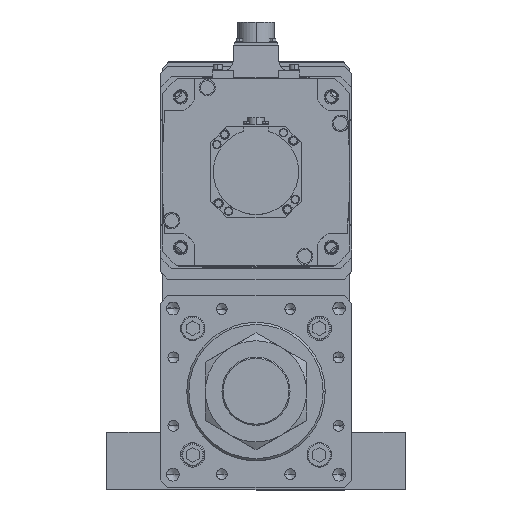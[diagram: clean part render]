
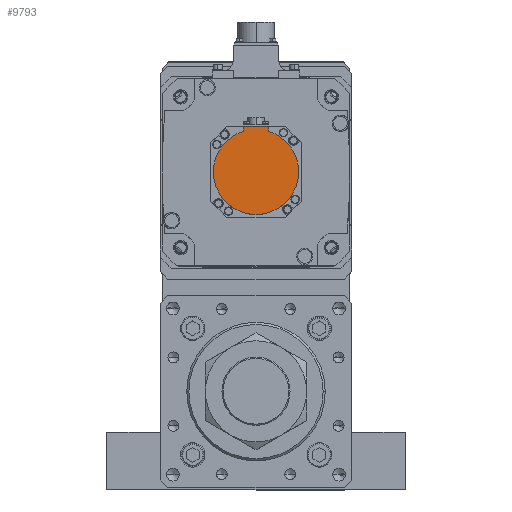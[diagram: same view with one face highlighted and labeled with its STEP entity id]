
A CAD part, top view. The second image highlights one B-rep face of the part: STEP entity #9793.
In plain terms, the highlighted planar face has unit normal (0, 0, 1) as drawn and (0, 0, -1) by its records, which use the part's own axes.
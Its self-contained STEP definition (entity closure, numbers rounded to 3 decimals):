
#882 = DIRECTION ( 'NONE',  ( -1., 0., 0. ) ) ;
#2450 = PLANE ( 'NONE',  #10994 ) ;
#7674 = EDGE_LOOP ( 'NONE', ( #53135, #46931, #9994, #36414, #35733, #21963 ) ) ;
#8342 = VERTEX_POINT ( 'NONE', #23519 ) ;
#8543 = LINE ( 'NONE', #25608, #47356 ) ;
#9793 = ADVANCED_FACE ( 'NONE', ( #44874 ), #2450, .F. ) ;
#9994 = ORIENTED_EDGE ( 'NONE', *, *, #20440, .F. ) ;
#10499 = EDGE_CURVE ( 'NONE', #15980, #22022, #8543, .T. ) ;
#10992 = DIRECTION ( 'NONE',  ( 1., 0., 0. ) ) ;
#10994 = AXIS2_PLACEMENT_3D ( 'NONE', #14597, #31576, #10992 ) ;
#12888 = DIRECTION ( 'NONE',  ( 0., 1., 0. ) ) ;
#13107 = VECTOR ( 'NONE', #12888, 1000. ) ;
#13436 = VECTOR ( 'NONE', #882, 1000. ) ;
#13711 = DIRECTION ( 'NONE',  ( 0., 1., 0. ) ) ;
#14597 = CARTESIAN_POINT ( 'NONE',  ( 0., -1.249, -178.5 ) ) ;
#15980 = VERTEX_POINT ( 'NONE', #16743 ) ;
#16743 = CARTESIAN_POINT ( 'NONE',  ( -12., -42.5, -178.5 ) ) ;
#17130 = DIRECTION ( 'NONE',  ( 1., 0., 0. ) ) ;
#17157 = CARTESIAN_POINT ( 'NONE',  ( 12., -38.158, -178.5 ) ) ;
#17539 = CARTESIAN_POINT ( 'NONE',  ( 12., -1.249, -178.5 ) ) ;
#20440 = EDGE_CURVE ( 'NONE', #26705, #8342, #20824, .T. ) ;
#20824 = CIRCLE ( 'NONE', #29746, 40. ) ;
#21963 = ORIENTED_EDGE ( 'NONE', *, *, #52432, .T. ) ;
#22022 = VERTEX_POINT ( 'NONE', #29661 ) ;
#22363 = EDGE_CURVE ( 'NONE', #46294, #26705, #49148, .T. ) ;
#23430 = VERTEX_POINT ( 'NONE', #29223 ) ;
#23519 = CARTESIAN_POINT ( 'NONE',  ( -40., 0., -178.5 ) ) ;
#24075 = LINE ( 'NONE', #17539, #13107 ) ;
#24833 = DIRECTION ( 'NONE',  ( 0., 0., 1. ) ) ;
#25608 = CARTESIAN_POINT ( 'NONE',  ( -12., -40.329, -178.5 ) ) ;
#26590 = CARTESIAN_POINT ( 'NONE',  ( 0., 0., -178.5 ) ) ;
#26705 = VERTEX_POINT ( 'NONE', #45783 ) ;
#26843 = EDGE_CURVE ( 'NONE', #23430, #46294, #24075, .T. ) ;
#28994 = DIRECTION ( 'NONE',  ( 1., 0., 0. ) ) ;
#29070 = DIRECTION ( 'NONE',  ( 0., 0., 1. ) ) ;
#29223 = CARTESIAN_POINT ( 'NONE',  ( 12., -42.5, -178.5 ) ) ;
#29661 = CARTESIAN_POINT ( 'NONE',  ( -12., -38.158, -178.5 ) ) ;
#29746 = AXIS2_PLACEMENT_3D ( 'NONE', #41718, #29070, #17130 ) ;
#31576 = DIRECTION ( 'NONE',  ( 0., 0., 1. ) ) ;
#34750 = DIRECTION ( 'NONE',  ( 0., 0., 1. ) ) ;
#35733 = ORIENTED_EDGE ( 'NONE', *, *, #26843, .F. ) ;
#36414 = ORIENTED_EDGE ( 'NONE', *, *, #22363, .F. ) ;
#39238 = DIRECTION ( 'NONE',  ( 1., 0., 0. ) ) ;
#41718 = CARTESIAN_POINT ( 'NONE',  ( 0., 0., -178.5 ) ) ;
#41817 = CARTESIAN_POINT ( 'NONE',  ( 0., 0., -178.5 ) ) ;
#42244 = CIRCLE ( 'NONE', #46333, 40. ) ;
#44874 = FACE_OUTER_BOUND ( 'NONE', #7674, .T. ) ;
#45783 = CARTESIAN_POINT ( 'NONE',  ( 40., 0., -178.5 ) ) ;
#46294 = VERTEX_POINT ( 'NONE', #17157 ) ;
#46333 = AXIS2_PLACEMENT_3D ( 'NONE', #26590, #34750, #39238 ) ;
#46931 = ORIENTED_EDGE ( 'NONE', *, *, #47834, .F. ) ;
#47356 = VECTOR ( 'NONE', #13711, 1000. ) ;
#47834 = EDGE_CURVE ( 'NONE', #8342, #22022, #42244, .T. ) ;
#49040 = LINE ( 'NONE', #50321, #13436 ) ;
#49148 = CIRCLE ( 'NONE', #53120, 40. ) ;
#50321 = CARTESIAN_POINT ( 'NONE',  ( 0., -42.5, -178.5 ) ) ;
#52432 = EDGE_CURVE ( 'NONE', #23430, #15980, #49040, .T. ) ;
#53120 = AXIS2_PLACEMENT_3D ( 'NONE', #41817, #24833, #28994 ) ;
#53135 = ORIENTED_EDGE ( 'NONE', *, *, #10499, .T. ) ;
